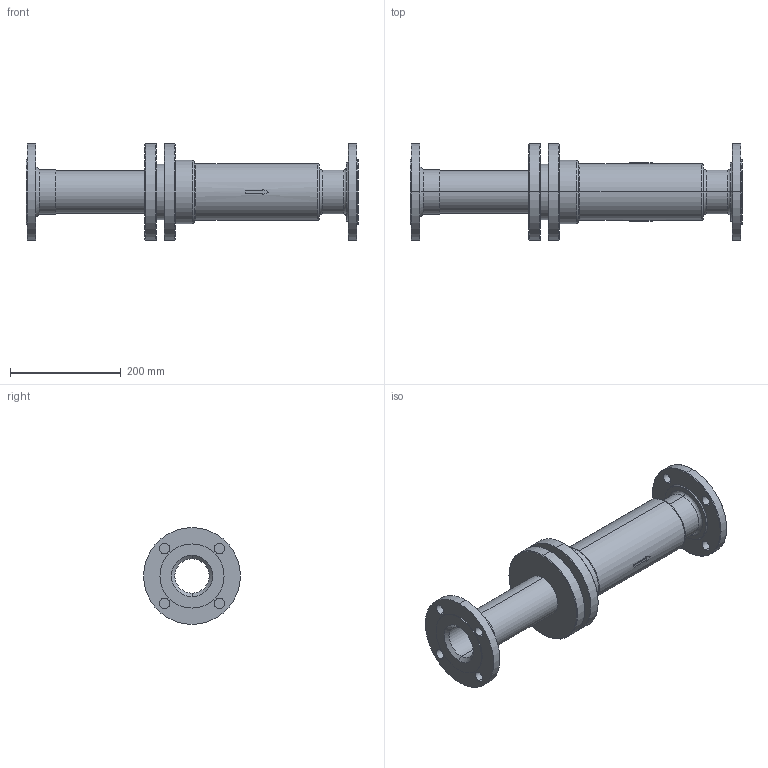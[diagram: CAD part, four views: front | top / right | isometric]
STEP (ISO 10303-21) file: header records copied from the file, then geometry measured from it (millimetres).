
FILE_DESCRIPTION( (''), '2;1');
FILE_NAME ('PC1027.9516.ES-10-200 65A_27312.stp','2025-07-30T14:41:08',(''),(''),'spGate 20.6.3 (****-****-****-****)','','');
FILE_SCHEMA (('AUTOMOTIVE_DESIGN'));
Length unit declared in the file: millimetre
Bounding box: 600 x 175 x 175 mm (x, y, z)
Volume: 3347071.3 mm3; surface area: 459443.2 mm2
Topology: 1 solids, 1 shells, 110 faces, 250 edges, 156 vertices
Faces by surface type: cylinder 46, bspline 34, plane 30
Entity records: 5561 total; most frequent: CARTESIAN_POINT 1170, ORIENTED_EDGE 500, DIRECTION 452, COLOUR_RGB 361, PRESENTATION_STYLE_ASSIGNMENT 361, STYLED_ITEM 361, EDGE_CURVE 250, DRAUGHTING_PRE_DEFINED_CURVE_FONT 250
